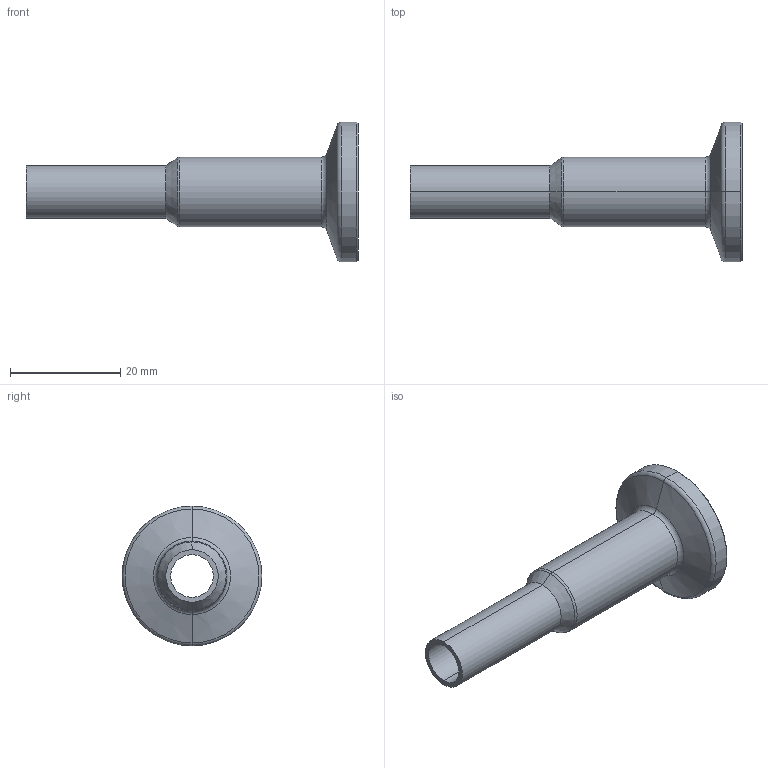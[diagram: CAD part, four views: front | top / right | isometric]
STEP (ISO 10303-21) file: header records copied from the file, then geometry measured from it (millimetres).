
FILE_DESCRIPTION (( 'STEP AP214' ), '1' );
FILE_NAME ('TE31SCW6L.5x.375-...STEP', '2016-05-29T10:45:33', ( 'eran' ), ( '' ), 'SwSTEP 2.0', 'SolidWorks 2016', '' );
FILE_SCHEMA (( 'AUTOMOTIVE_DESIGN' ));
Length unit declared in the file: millimetre
Products named in the file (1): TE31SCW6L.5x.375-..
Bounding box: 60.33 x 25.4 x 25.4 mm (x, y, z)
Volume: 4423.6 mm3; surface area: 4729.5 mm2
Topology: 1 solids, 1 shells, 37 faces, 74 edges, 40 vertices
Faces by surface type: cone 12, cylinder 12, torus 10, plane 3
Entity records: 992 total; most frequent: DIRECTION 200, CARTESIAN_POINT 152, ORIENTED_EDGE 148, AXIS2_PLACEMENT_3D 88, EDGE_CURVE 74, CIRCLE 50, VERTEX_POINT 40, EDGE_LOOP 40
